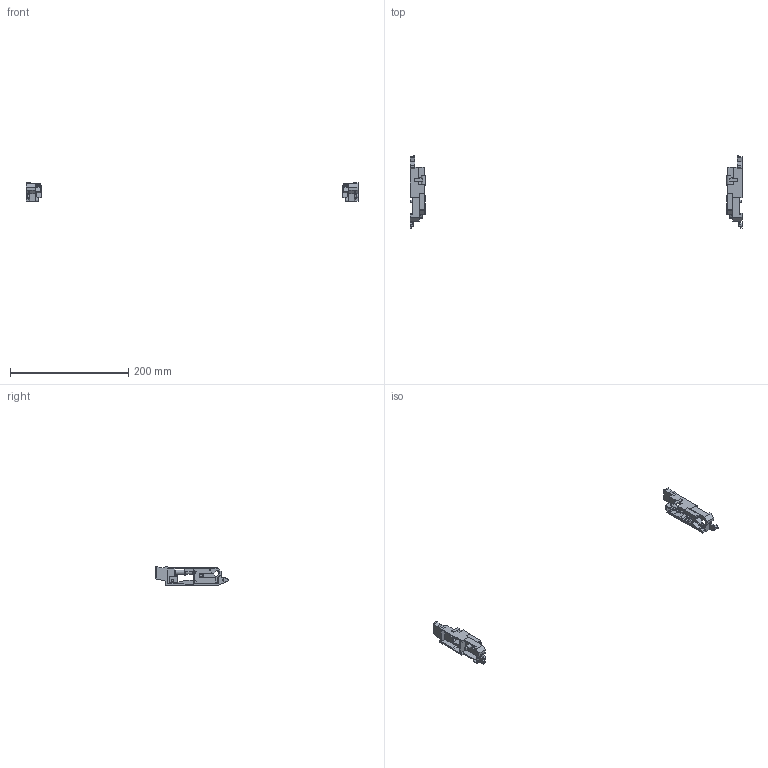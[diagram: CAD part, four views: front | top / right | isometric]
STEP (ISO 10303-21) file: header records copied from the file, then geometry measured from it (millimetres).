
FILE_DESCRIPTION( ( 'STEP AP214' ), '1' );
FILE_NAME( 'C:/Users/kosh/Desktop/live projects/Core products Locking systems/9078710.stp', '2019-10-11T09:30:10', ( '' ), ( '' ), ' ', 'PARTsolutions', ' ' );
FILE_SCHEMA( ( 'AUTOMOTIVE_DESIGN { 1 0 10303 214 1 1 1 1 }' ) );
Length unit declared in the file: millimetre
Products named in the file (3): 113486063 &ARTICLENO._1; _&ARTICLENO._1; _&ARTICLENO._2
Assembly tree (2 placements, depth 2):
  113486063 &ARTICLENO._1
    _&ARTICLENO._1
    _&ARTICLENO._2
Bounding box: 562 x 122.45 x 31.5 mm (x, y, z)
Volume: 51926.1 mm3; surface area: 35509.5 mm2
Topology: 2 solids, 2 shells, 366 faces, 1054 edges, 698 vertices
Faces by surface type: plane 324, cylinder 42
Full cylindrical faces by diameter (mm): 3.8 x2, 4 x2, 7 x2
Entity records: 14792 total; most frequent: CARTESIAN_POINT 2123, ORIENTED_EDGE 2096, DIRECTION 1880, EDGE_CURVE 1048, LINE 946, VECTOR 946, VERTEX_POINT 698, AXIS2_PLACEMENT_3D 467
